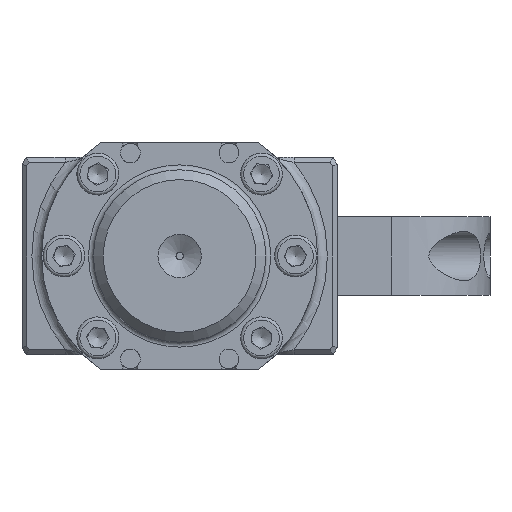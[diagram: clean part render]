
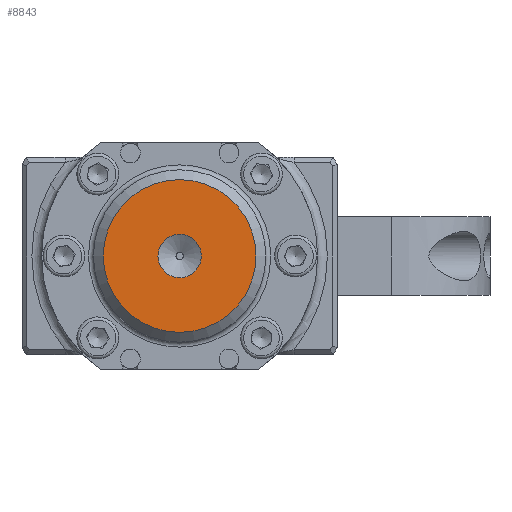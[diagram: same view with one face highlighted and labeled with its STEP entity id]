
A CAD part, front view. The second image highlights one B-rep face of the part: STEP entity #8843.
In plain terms, the highlighted planar face has unit normal (0, -1, 0).
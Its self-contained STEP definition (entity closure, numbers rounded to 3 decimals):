
#6690=FACE_BOUND('',#11247,.T.);
#6691=FACE_BOUND('',#11248,.T.);
#7890=CIRCLE('',#22025,4.4);
#7893=CIRCLE('',#22030,15.5);
#8843=ADVANCED_FACE('',(#6690,#6691),#9548,.F.);
#9548=PLANE('',#22035);
#11247=EDGE_LOOP('',(#14952));
#11248=EDGE_LOOP('',(#14953));
#14952=ORIENTED_EDGE('',*,*,#18423,.F.);
#14953=ORIENTED_EDGE('',*,*,#18426,.T.);
#16538=VERTEX_POINT('',#31615);
#16541=VERTEX_POINT('',#31623);
#18423=EDGE_CURVE('',#16538,#16538,#7890,.T.);
#18426=EDGE_CURVE('',#16541,#16541,#7893,.T.);
#22025=AXIS2_PLACEMENT_3D('',#31614,#25989,#25990);
#22030=AXIS2_PLACEMENT_3D('',#31622,#25999,#26000);
#22035=AXIS2_PLACEMENT_3D('',#31630,#26009,#26010);
#25989=DIRECTION('',(0.,-1.,0.));
#25990=DIRECTION('',(0.,0.,-1.));
#25999=DIRECTION('',(0.,-1.,0.));
#26000=DIRECTION('',(0.,0.,1.));
#26009=DIRECTION('',(0.,1.,0.));
#26010=DIRECTION('',(0.,0.,1.));
#31614=CARTESIAN_POINT('',(-63.,-234.,-20.));
#31615=CARTESIAN_POINT('',(-63.,-234.,-24.4));
#31622=CARTESIAN_POINT('',(-63.,-234.,-20.));
#31623=CARTESIAN_POINT('',(-63.,-234.,-4.5));
#31630=CARTESIAN_POINT('',(-63.,-234.,-20.));
